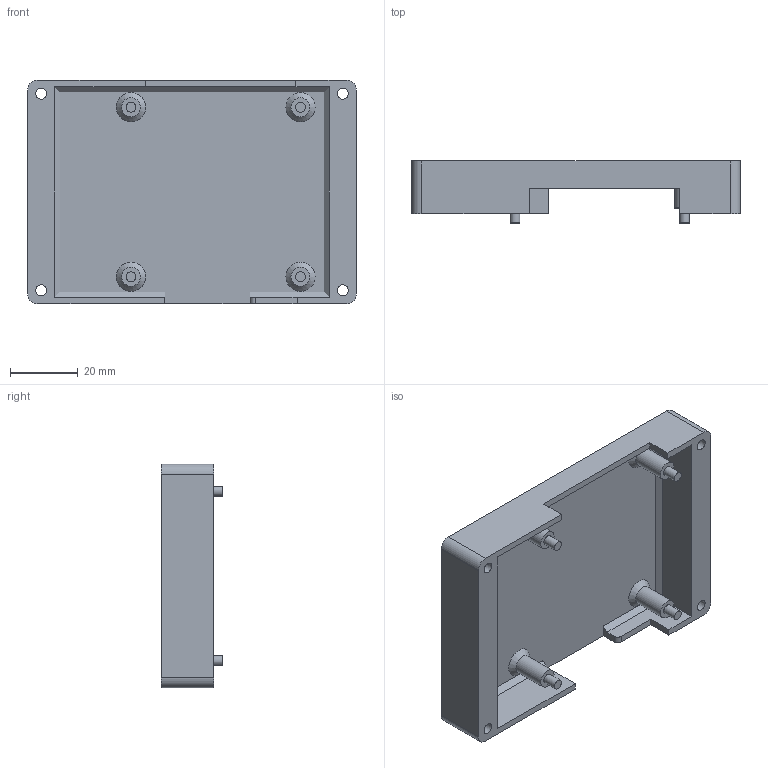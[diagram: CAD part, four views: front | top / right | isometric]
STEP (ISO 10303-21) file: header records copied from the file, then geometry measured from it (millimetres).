
FILE_DESCRIPTION(/* description */ (''),/* implementation_level */ '2;1');
FILE_NAME(/* name */ 'Altmann OpenRemise Deckel V3.step',/* time_stamp */ '2025-05-25T11:10:27+02:00',/* author */ (''),/* organization */ (''),/* preprocessor_version */ 'ST-DEVELOPER v20.1',/* originating_system */ 'Autodesk Translation Framework v14.4.0.0',/* authorisation */ '');
FILE_SCHEMA (('AUTOMOTIVE_DESIGN { 1 0 10303 214 3 1 1 }'));
Length unit declared in the file: millimetre
Products named in the file (1): Altmann OpenRemise
Bounding box: 97 x 18.2 x 66 mm (x, y, z)
Volume: 30598 mm3; surface area: 21561.1 mm2
Topology: 1 solids, 1 shells, 62 faces, 140 edges, 92 vertices
Faces by surface type: plane 37, cylinder 21, cone 4
Full cylindrical faces by diameter (mm): 2.9 x4, 3.2 x4, 5.597 x4, 6 x4
Entity records: 1822 total; most frequent: DIRECTION 312, CARTESIAN_POINT 295, ORIENTED_EDGE 280, EDGE_CURVE 140, AXIS2_PLACEMENT_3D 109, LINE 94, VECTOR 94, VERTEX_POINT 92
